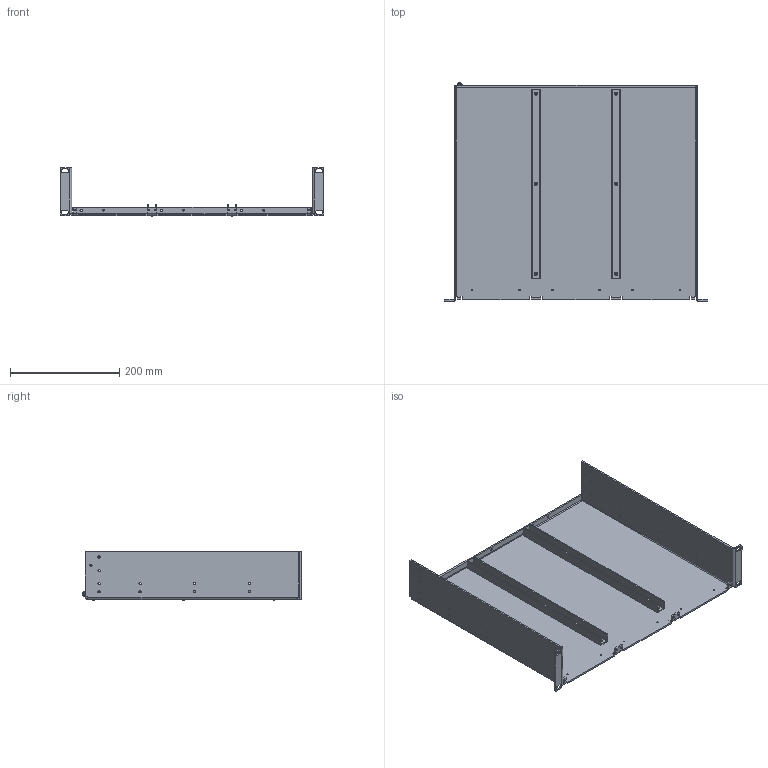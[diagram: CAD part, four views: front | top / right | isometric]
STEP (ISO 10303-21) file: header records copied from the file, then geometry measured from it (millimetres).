
FILE_DESCRIPTION(/* description */ ('19" Subrack 2U 84TE','CAx-IF Rec.Pracs.---Representation and Presentation of Product Manufacturing Information (PMI)---4.0---2014-10-13'),/* implementation_level */ '2;1');
FILE_NAME(/* name */ 'E:\CAMTEC_2020_Pack and Go\Subrack_2U\2201004001CA.stp',/* time_stamp */ '2020-09-21T15:35:08+02:00',/* author */ ('rryba'),/* organization */ (''),/* preprocessor_version */ 'ST-DEVELOPER v18.1',/* originating_system */ 'Autodesk Inventor 2021',/* authorisation */ '');
FILE_SCHEMA (('AP242_MANAGED_MODEL_BASED_3D_ENGINEERING_MIM_LF { 1 0 10303 442 1 1 4 }'));
Length unit declared in the file: millimetre
Products named in the file (6): 2201004001CA; 2021075003; 2051040002; 2530396; 2530393; 2530073
Assembly tree (11 placements, depth 2):
  2201004001CA
    2021075003
    2051040002  x2
    2530396  x6
    2530393
    2530073
Bounding box: 483 x 399.86 x 89.45 mm (x, y, z)
Volume: 811192.9 mm3; surface area: 575903.6 mm2
Topology: 11 solids, 12 shells, 434 faces, 1463 edges, 1389 vertices
Faces by surface type: plane 207, cylinder 114, cone 81, torus 31, sphere 1
Full cylindrical faces by diameter (mm): 0.314 x1, 2.459 x18, 2.693 x6, 3 x6, 3.242 x4, 3.4 x6, 4 x1, 4.134 x22, 4.3 x1, 5 x3, 5.5 x6, 5.9 x6, 8 x1, 9 x1
Entity records: 9287 total; most frequent: CARTESIAN_POINT 1794, DIRECTION 1498, ORIENTED_EDGE 1338, EDGE_CURVE 669, AXIS2_PLACEMENT_3D 539, LINE 420, VECTOR 420, VERTEX_POINT 419
